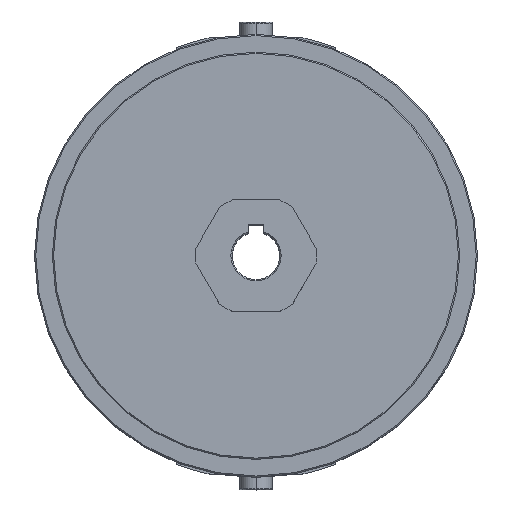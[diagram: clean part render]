
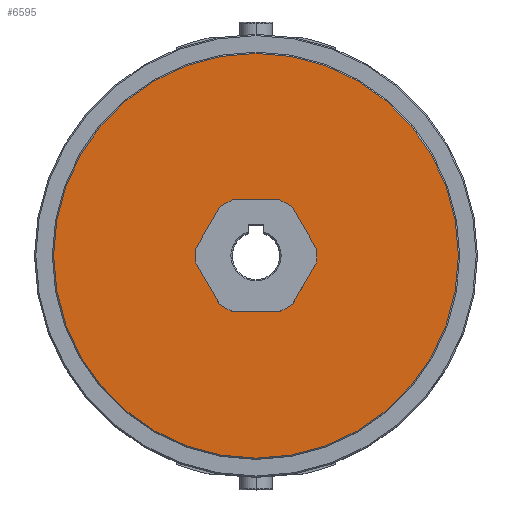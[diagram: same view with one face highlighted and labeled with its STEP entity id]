
A CAD part, top view. The second image highlights one B-rep face of the part: STEP entity #6595.
In plain terms, the highlighted planar face has unit normal (0, 0, 1).
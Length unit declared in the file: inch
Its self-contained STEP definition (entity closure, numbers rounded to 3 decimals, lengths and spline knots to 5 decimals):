
#183 = CARTESIAN_POINT ( 'NONE',  ( -0.50518, -0.875, -0.5 ) ) ;
#192 = EDGE_LOOP ( 'NONE', ( #3037, #3926 ) ) ;
#241 = EDGE_CURVE ( 'NONE', #11059, #507, #1948, .T. ) ;
#396 = DIRECTION ( 'NONE',  ( 1., 0., 0. ) ) ;
#402 = DIRECTION ( 'NONE',  ( 1., 0., 0. ) ) ;
#418 = AXIS2_PLACEMENT_3D ( 'NONE', #2049, #8281, #2963 ) ;
#507 = VERTEX_POINT ( 'NONE', #10153 ) ;
#546 = CARTESIAN_POINT ( 'NONE',  ( 3.175, 0., -0.5 ) ) ;
#859 = CARTESIAN_POINT ( 'NONE',  ( -1.01036, 0., -0.5 ) ) ;
#860 = EDGE_LOOP ( 'NONE', ( #9950, #3019, #6915, #8435, #3562, #3189, #8183, #5581, #6921, #1565, #5555, #9593, #7144 ) ) ;
#1010 = VERTEX_POINT ( 'NONE', #7710 ) ;
#1058 = FACE_BOUND ( 'NONE', #860, .T. ) ;
#1176 = LINE ( 'NONE', #183, #5629 ) ;
#1266 = EDGE_CURVE ( 'NONE', #1010, #4384, #6307, .T. ) ;
#1465 = CARTESIAN_POINT ( 'NONE',  ( 0., 0., -0.5 ) ) ;
#1535 = CARTESIAN_POINT ( 'NONE',  ( 0.50518, -0.875, -0.5 ) ) ;
#1565 = ORIENTED_EDGE ( 'NONE', *, *, #8097, .F. ) ;
#1676 = CARTESIAN_POINT ( 'NONE',  ( 0., 0., -0.5 ) ) ;
#1820 = AXIS2_PLACEMENT_3D ( 'NONE', #10248, #4916, #11151 ) ;
#1948 = CIRCLE ( 'NONE', #10427, 0.95 ) ;
#2002 = DIRECTION ( 'NONE',  ( 1., 0., 0. ) ) ;
#2049 = CARTESIAN_POINT ( 'NONE',  ( 0., 0., -0.5 ) ) ;
#2312 = EDGE_CURVE ( 'NONE', #2993, #3157, #7679, .T. ) ;
#2357 = DIRECTION ( 'NONE',  ( -1., 0., 0. ) ) ;
#2438 = VECTOR ( 'NONE', #7957, 39.37008 ) ;
#2531 = EDGE_CURVE ( 'NONE', #4722, #2993, #6143, .T. ) ;
#2576 = DIRECTION ( 'NONE',  ( 1., 0., 0. ) ) ;
#2577 = LINE ( 'NONE', #1535, #7715 ) ;
#2882 = CIRCLE ( 'NONE', #1820, 0.95 ) ;
#2963 = DIRECTION ( 'NONE',  ( 1., 0., 0. ) ) ;
#2988 = CARTESIAN_POINT ( 'NONE',  ( 0., 0.95, -0.5 ) ) ;
#2993 = VERTEX_POINT ( 'NONE', #8373 ) ;
#3019 = ORIENTED_EDGE ( 'NONE', *, *, #9893, .F. ) ;
#3037 = ORIENTED_EDGE ( 'NONE', *, *, #1266, .T. ) ;
#3157 = VERTEX_POINT ( 'NONE', #8107 ) ;
#3189 = ORIENTED_EDGE ( 'NONE', *, *, #7599, .F. ) ;
#3562 = ORIENTED_EDGE ( 'NONE', *, *, #241, .F. ) ;
#3581 = CARTESIAN_POINT ( 'NONE',  ( 0.57279, 0.7579, -0.5 ) ) ;
#3667 = CARTESIAN_POINT ( 'NONE',  ( 0., 0., -0.5 ) ) ;
#3775 = CARTESIAN_POINT ( 'NONE',  ( 0., 0., -0.5 ) ) ;
#3888 = CIRCLE ( 'NONE', #9161, 0.95 ) ;
#3889 = VERTEX_POINT ( 'NONE', #5636 ) ;
#3926 = ORIENTED_EDGE ( 'NONE', *, *, #9735, .T. ) ;
#3961 = VERTEX_POINT ( 'NONE', #5824 ) ;
#3985 = LINE ( 'NONE', #4825, #10816 ) ;
#4308 = CARTESIAN_POINT ( 'NONE',  ( 0.94276, -0.1171, -0.5 ) ) ;
#4371 = AXIS2_PLACEMENT_3D ( 'NONE', #1465, #7689, #2357 ) ;
#4384 = VERTEX_POINT ( 'NONE', #546 ) ;
#4387 = DIRECTION ( 'NONE',  ( -0.5, -0.866, 0. ) ) ;
#4401 = DIRECTION ( 'NONE',  ( 0., 0., 1. ) ) ;
#4544 = CIRCLE ( 'NONE', #5081, 3.175 ) ;
#4566 = DIRECTION ( 'NONE',  ( 1., 0., 0. ) ) ;
#4603 = EDGE_CURVE ( 'NONE', #5468, #3889, #4824, .T. ) ;
#4669 = DIRECTION ( 'NONE',  ( -1., 0., 0. ) ) ;
#4682 = VECTOR ( 'NONE', #10207, 39.37008 ) ;
#4684 = CIRCLE ( 'NONE', #8130, 0.95 ) ;
#4722 = VERTEX_POINT ( 'NONE', #5503 ) ;
#4824 = LINE ( 'NONE', #859, #2438 ) ;
#4825 = CARTESIAN_POINT ( 'NONE',  ( 1.01036, 0., -0.5 ) ) ;
#4916 = DIRECTION ( 'NONE',  ( 0., 0., 1. ) ) ;
#5081 = AXIS2_PLACEMENT_3D ( 'NONE', #3775, #9982, #4669 ) ;
#5314 = VECTOR ( 'NONE', #4387, 39.37008 ) ;
#5440 = VERTEX_POINT ( 'NONE', #3581 ) ;
#5468 = VERTEX_POINT ( 'NONE', #8880 ) ;
#5503 = CARTESIAN_POINT ( 'NONE',  ( -0.36997, 0.875, -0.5 ) ) ;
#5521 = FACE_OUTER_BOUND ( 'NONE', #192, .T. ) ;
#5555 = ORIENTED_EDGE ( 'NONE', *, *, #4603, .F. ) ;
#5581 = ORIENTED_EDGE ( 'NONE', *, *, #8379, .F. ) ;
#5606 = EDGE_CURVE ( 'NONE', #10117, #7061, #1176, .T. ) ;
#5629 = VECTOR ( 'NONE', #2002, 39.37008 ) ;
#5636 = CARTESIAN_POINT ( 'NONE',  ( -0.57279, -0.7579, -0.5 ) ) ;
#5691 = EDGE_CURVE ( 'NONE', #507, #5440, #3985, .T. ) ;
#5754 = DIRECTION ( 'NONE',  ( 0., 0., 1. ) ) ;
#5761 = DIRECTION ( 'NONE',  ( 0., 0., 1. ) ) ;
#5824 = CARTESIAN_POINT ( 'NONE',  ( 0.36997, 0.875, -0.5 ) ) ;
#5842 = EDGE_CURVE ( 'NONE', #10142, #7113, #2577, .T. ) ;
#6143 = CIRCLE ( 'NONE', #8322, 0.95 ) ;
#6307 = CIRCLE ( 'NONE', #4371, 3.175 ) ;
#6513 = DIRECTION ( 'NONE',  ( 0., 0., -1. ) ) ;
#6595 = ADVANCED_FACE ( 'NONE', ( #1058, #5521 ), #10115, .F. ) ;
#6849 = DIRECTION ( 'NONE',  ( 0.5, 0.866, 0. ) ) ;
#6853 = CARTESIAN_POINT ( 'NONE',  ( -0.36997, -0.875, -0.5 ) ) ;
#6915 = ORIENTED_EDGE ( 'NONE', *, *, #8686, .F. ) ;
#6921 = ORIENTED_EDGE ( 'NONE', *, *, #5606, .F. ) ;
#6961 = EDGE_CURVE ( 'NONE', #3157, #5468, #2882, .T. ) ;
#7061 = VERTEX_POINT ( 'NONE', #11254 ) ;
#7113 = VERTEX_POINT ( 'NONE', #4308 ) ;
#7144 = ORIENTED_EDGE ( 'NONE', *, *, #2312, .F. ) ;
#7599 = EDGE_CURVE ( 'NONE', #7113, #11059, #4684, .T. ) ;
#7679 = LINE ( 'NONE', #10607, #5314 ) ;
#7689 = DIRECTION ( 'NONE',  ( 0., 0., 1. ) ) ;
#7710 = CARTESIAN_POINT ( 'NONE',  ( -3.175, 0., -0.5 ) ) ;
#7715 = VECTOR ( 'NONE', #6849, 39.37008 ) ;
#7898 = DIRECTION ( 'NONE',  ( 0., 0., 1. ) ) ;
#7957 = DIRECTION ( 'NONE',  ( 0.5, -0.866, 0. ) ) ;
#8097 = EDGE_CURVE ( 'NONE', #3889, #10117, #8793, .T. ) ;
#8107 = CARTESIAN_POINT ( 'NONE',  ( -0.94276, 0.1171, -0.5 ) ) ;
#8130 = AXIS2_PLACEMENT_3D ( 'NONE', #9717, #4401, #10623 ) ;
#8183 = ORIENTED_EDGE ( 'NONE', *, *, #5842, .F. ) ;
#8281 = DIRECTION ( 'NONE',  ( 0., 0., 1. ) ) ;
#8322 = AXIS2_PLACEMENT_3D ( 'NONE', #11118, #5761, #402 ) ;
#8373 = CARTESIAN_POINT ( 'NONE',  ( -0.57279, 0.7579, -0.5 ) ) ;
#8379 = EDGE_CURVE ( 'NONE', #7061, #10142, #9636, .T. ) ;
#8435 = ORIENTED_EDGE ( 'NONE', *, *, #5691, .F. ) ;
#8686 = EDGE_CURVE ( 'NONE', #5440, #3961, #3888, .T. ) ;
#8793 = CIRCLE ( 'NONE', #11051, 0.95 ) ;
#8880 = CARTESIAN_POINT ( 'NONE',  ( -0.94276, -0.1171, -0.5 ) ) ;
#9090 = LINE ( 'NONE', #9287, #4682 ) ;
#9161 = AXIS2_PLACEMENT_3D ( 'NONE', #3667, #9887, #4566 ) ;
#9287 = CARTESIAN_POINT ( 'NONE',  ( 0.50518, 0.875, -0.5 ) ) ;
#9593 = ORIENTED_EDGE ( 'NONE', *, *, #6961, .F. ) ;
#9636 = CIRCLE ( 'NONE', #418, 0.95 ) ;
#9717 = CARTESIAN_POINT ( 'NONE',  ( 0., 0., -0.5 ) ) ;
#9735 = EDGE_CURVE ( 'NONE', #4384, #1010, #4544, .T. ) ;
#9887 = DIRECTION ( 'NONE',  ( 0., 0., 1. ) ) ;
#9893 = EDGE_CURVE ( 'NONE', #3961, #4722, #9090, .T. ) ;
#9950 = ORIENTED_EDGE ( 'NONE', *, *, #2531, .F. ) ;
#9982 = DIRECTION ( 'NONE',  ( 0., 0., 1. ) ) ;
#10037 = AXIS2_PLACEMENT_3D ( 'NONE', #2988, #6513, #11017 ) ;
#10041 = CARTESIAN_POINT ( 'NONE',  ( 0.95, 0., -0.5 ) ) ;
#10115 = PLANE ( 'NONE',  #10037 ) ;
#10117 = VERTEX_POINT ( 'NONE', #6853 ) ;
#10141 = DIRECTION ( 'NONE',  ( -0.5, 0.866, 0. ) ) ;
#10142 = VERTEX_POINT ( 'NONE', #10511 ) ;
#10153 = CARTESIAN_POINT ( 'NONE',  ( 0.94276, 0.1171, -0.5 ) ) ;
#10207 = DIRECTION ( 'NONE',  ( -1., 0., 0. ) ) ;
#10248 = CARTESIAN_POINT ( 'NONE',  ( 0., 0., -0.5 ) ) ;
#10427 = AXIS2_PLACEMENT_3D ( 'NONE', #11111, #5754, #396 ) ;
#10511 = CARTESIAN_POINT ( 'NONE',  ( 0.57279, -0.7579, -0.5 ) ) ;
#10607 = CARTESIAN_POINT ( 'NONE',  ( -0.50518, 0.875, -0.5 ) ) ;
#10623 = DIRECTION ( 'NONE',  ( 1., 0., 0. ) ) ;
#10816 = VECTOR ( 'NONE', #10141, 39.37008 ) ;
#11017 = DIRECTION ( 'NONE',  ( -1., 0., 0. ) ) ;
#11051 = AXIS2_PLACEMENT_3D ( 'NONE', #1676, #7898, #2576 ) ;
#11059 = VERTEX_POINT ( 'NONE', #10041 ) ;
#11111 = CARTESIAN_POINT ( 'NONE',  ( 0., 0., -0.5 ) ) ;
#11118 = CARTESIAN_POINT ( 'NONE',  ( 0., 0., -0.5 ) ) ;
#11151 = DIRECTION ( 'NONE',  ( 1., 0., 0. ) ) ;
#11254 = CARTESIAN_POINT ( 'NONE',  ( 0.36997, -0.875, -0.5 ) ) ;
